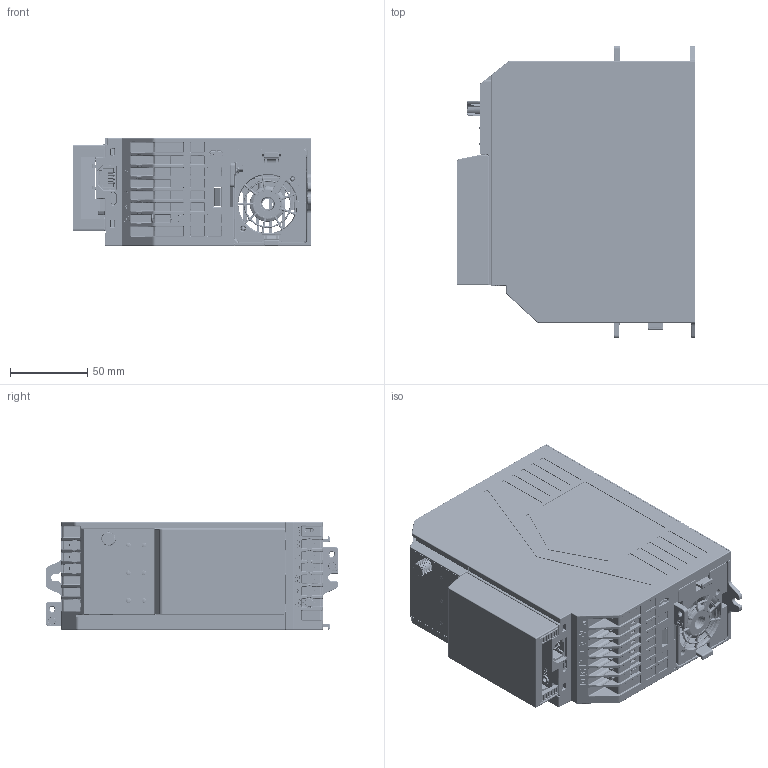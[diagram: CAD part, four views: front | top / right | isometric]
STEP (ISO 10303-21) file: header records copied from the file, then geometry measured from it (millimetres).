
FILE_DESCRIPTION((''),'2;1');
FILE_NAME('GD27-B_ASM','2024-07-11T18:11:08',('Administrator'),(''),'CREO PARAMETRIC BY PTC INC, 2019080','CREO PARAMETRIC BY PTC INC, 2019080','');
FILE_SCHEMA(('CONFIG_CONTROL_DESIGN'));
Products named in the file (7): GD27-B_1_5; GD27-B_1_6; GD27-B_1_7; GD27-B_1_8; GD27-B_1_11; GD27-B_1_ASM; GD27-B_ASM
Assembly tree (6 placements, depth 3):
  GD27-B_ASM
    GD27-B_1_ASM
      GD27-B_1_5
      GD27-B_1_6
      GD27-B_1_7
      GD27-B_1_8
      GD27-B_1_11
Bounding box: 155 x 190 x 70 mm (x, y, z)
Volume: 67611.6 mm3; surface area: 437500.7 mm2
Topology: 5 solids, 31 shells, 14042 faces, 38344 edges, 23969 vertices
Faces by surface type: plane 6733, cylinder 4094, bspline 1355, torus 768, extrusion 472, cone 471, sphere 149
Entity records: 543168 total; most frequent: CARTESIAN_POINT 202564, ORIENTED_EDGE 76165, DIRECTION 63622, EDGE_CURVE 38174, VERTEX_POINT 23969, VECTOR 23082, LINE 22610, AXIS2_PLACEMENT_3D 20270
